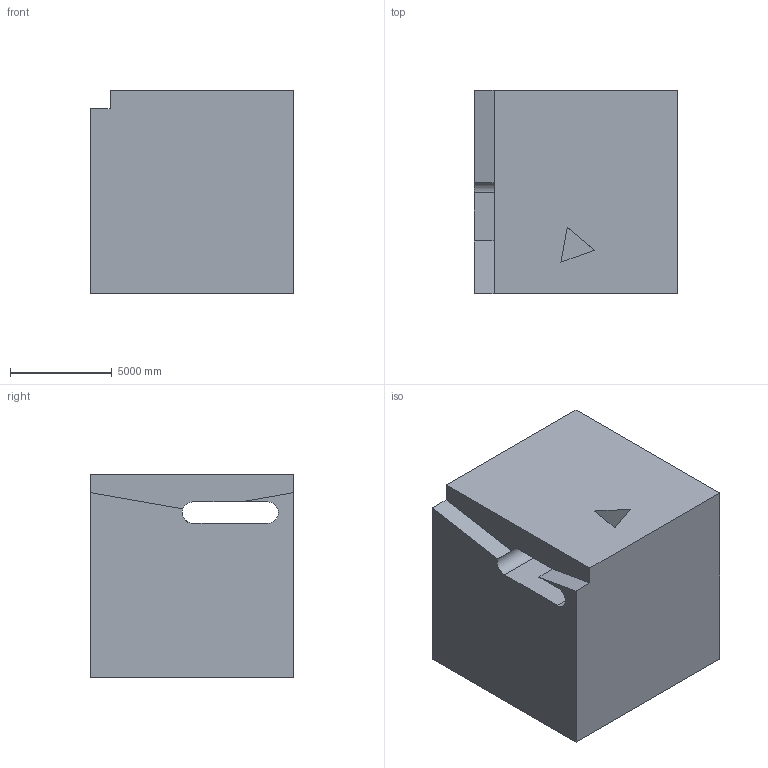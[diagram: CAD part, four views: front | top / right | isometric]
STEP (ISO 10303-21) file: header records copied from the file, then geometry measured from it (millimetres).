
FILE_DESCRIPTION (( 'STEP AP203' ), '1' );
FILE_NAME ('121.STEP', '2022-09-06T14:38:21', ( 'user' ), ( '' ), 'SwSTEP 2.0', 'SolidWorks 2021', '' );
FILE_SCHEMA (( 'CONFIG_CONTROL_DESIGN' ));
Length unit declared in the file: centimetre
Products named in the file (1): 121
Bounding box: 10000 x 10000 x 10000 mm (x, y, z)
Volume: 937073395671.4 mm3; surface area: 698938988.6 mm2
Topology: 1 solids, 1 shells, 20 faces, 54 edges, 36 vertices
Faces by surface type: plane 18, cylinder 2
Entity records: 708 total; most frequent: CARTESIAN_POINT 111, ORIENTED_EDGE 108, DIRECTION 101, EDGE_CURVE 54, LINE 49, VECTOR 49, VERTEX_POINT 36, AXIS2_PLACEMENT_3D 26
